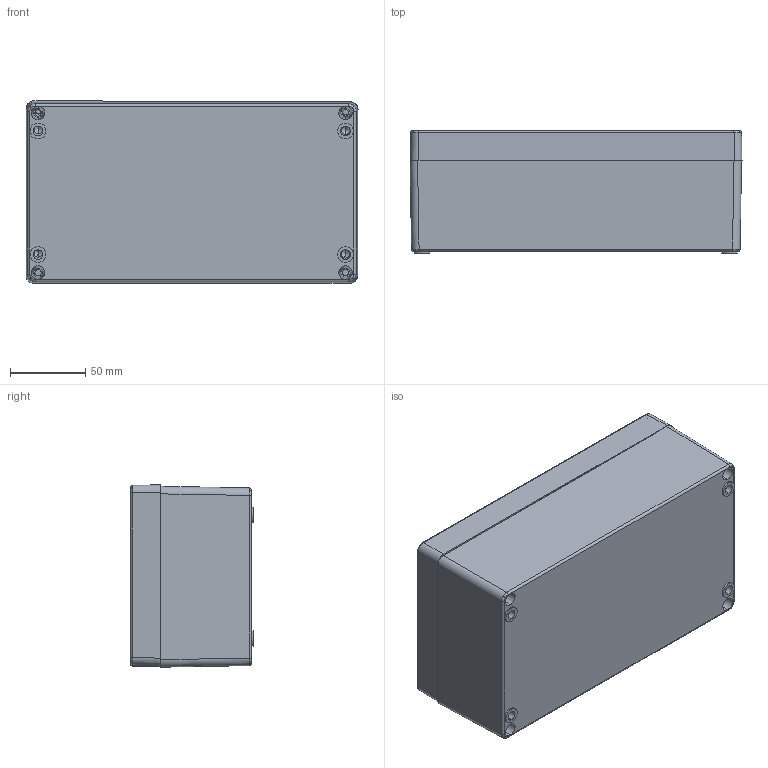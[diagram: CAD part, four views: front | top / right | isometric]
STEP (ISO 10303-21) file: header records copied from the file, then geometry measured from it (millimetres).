
FILE_DESCRIPTION (( 'STEP AP214' ), '1' );
FILE_NAME ('Zag 10 Assembly.STEP', '2016-05-03T08:19:35', ( '' ), ( '' ), 'SwSTEP 2.0', 'SolidWorks 2015', '' );
FILE_SCHEMA (( 'AUTOMOTIVE_DESIGN' ));
Length unit declared in the file: millimetre
Products named in the file (5): single coil rectangular section spring washer_bsi_Rectangular section spring washer BS 4464 - 5 (Type B); pan head cross recess screw_bsi_ISO 7045 - M5 x 25 - Z --- 25N; Zag 10 Lid; Zag 10 Body; Zag 10 Assembly
Assembly tree (10 placements, depth 2):
  Zag 10 Assembly
    Zag 10 Body
    Zag 10 Lid
    pan head cross recess screw_bsi_ISO 7045 - M5 x 25 - Z --- 25N  x4
    single coil rectangular section spring washer_bsi_Rectangular section spring washer BS 4464 - 5 (Type B)  x4
Bounding box: 220.29 x 81.2 x 121.01 mm (x, y, z)
Volume: 447265.5 mm3; surface area: 222983.5 mm2
Topology: 10 solids, 10 shells, 523 faces, 1386 edges, 878 vertices
Faces by surface type: plane 201, cylinder 142, cone 88, bspline 48, torus 36, sphere 8
Entity records: 17367 total; most frequent: CARTESIAN_POINT 7516, ORIENTED_EDGE 2064, DIRECTION 1848, EDGE_CURVE 1032, VERTEX_POINT 677, AXIS2_PLACEMENT_3D 668, LINE 512, VECTOR 512
